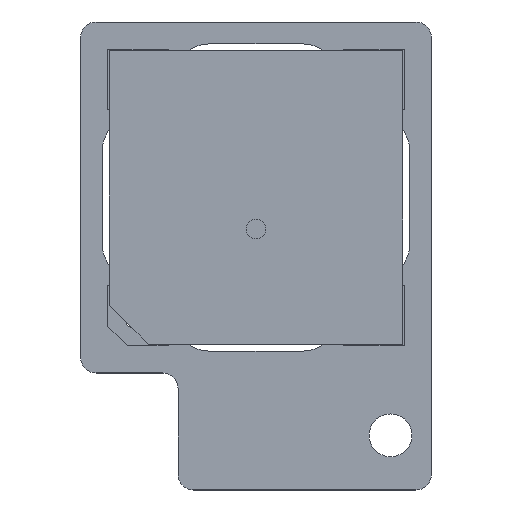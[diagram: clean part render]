
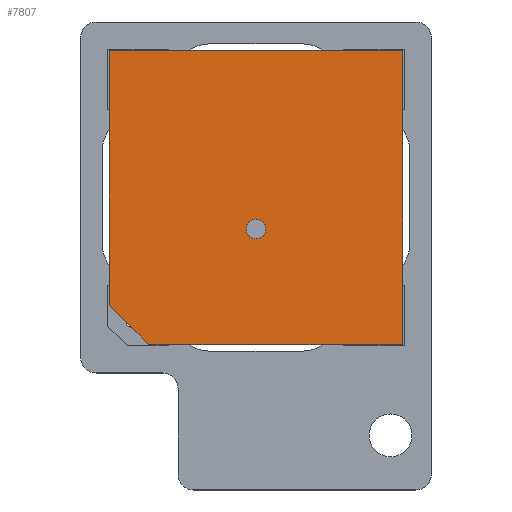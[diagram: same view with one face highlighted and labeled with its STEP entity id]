
A CAD part, top view. The second image highlights one B-rep face of the part: STEP entity #7807.
In plain terms, the highlighted planar face has unit normal (0, 0, 1).
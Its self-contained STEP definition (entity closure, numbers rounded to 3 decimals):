
#238 = CARTESIAN_POINT ( 'NONE',  ( 0., 0., 0.38 ) ) ;
#319 = LINE ( 'NONE', #8445, #10236 ) ;
#560 = LINE ( 'NONE', #8284, #6853 ) ;
#768 = DIRECTION ( 'NONE',  ( 1., 0., 0. ) ) ;
#893 = VERTEX_POINT ( 'NONE', #10473 ) ;
#1015 = CARTESIAN_POINT ( 'NONE',  ( -20.012, 9.089, 0.38 ) ) ;
#1108 = EDGE_CURVE ( 'NONE', #11701, #7348, #3066, .T. ) ;
#1284 = DIRECTION ( 'NONE',  ( 0., 1., 0. ) ) ;
#1442 = VECTOR ( 'NONE', #1284, 1000. ) ;
#1480 = AXIS2_PLACEMENT_3D ( 'NONE', #238, #11181, #12378 ) ;
#1613 = DIRECTION ( 'NONE',  ( 0.707, -0.707, 0. ) ) ;
#1979 = EDGE_CURVE ( 'NONE', #893, #3535, #11154, .T. ) ;
#2186 = CARTESIAN_POINT ( 'NONE',  ( -4.962, 22.139, 0.38 ) ) ;
#2337 = CARTESIAN_POINT ( 'NONE',  ( -11.987, 12.989, 0.38 ) ) ;
#3066 = LINE ( 'NONE', #3977, #6431 ) ;
#3254 = FACE_OUTER_BOUND ( 'NONE', #7750, .T. ) ;
#3535 = VERTEX_POINT ( 'NONE', #7737 ) ;
#3772 = DIRECTION ( 'NONE',  ( 1., 0., 0. ) ) ;
#3977 = CARTESIAN_POINT ( 'NONE',  ( -20.012, 22.139, 0.38 ) ) ;
#4034 = DIRECTION ( 'NONE',  ( 0., -1., 0. ) ) ;
#4213 = ORIENTED_EDGE ( 'NONE', *, *, #7452, .T. ) ;
#4424 = EDGE_CURVE ( 'NONE', #7348, #11019, #560, .T. ) ;
#4458 = ORIENTED_EDGE ( 'NONE', *, *, #4424, .T. ) ;
#4561 = ORIENTED_EDGE ( 'NONE', *, *, #5267, .F. ) ;
#5267 = EDGE_CURVE ( 'NONE', #8298, #8298, #10371, .T. ) ;
#5297 = DIRECTION ( 'NONE',  ( -1., 0., 0. ) ) ;
#5534 = CARTESIAN_POINT ( 'NONE',  ( -18.012, 7.089, 0.38 ) ) ;
#5808 = DIRECTION ( 'NONE',  ( 0., 0., 1. ) ) ;
#6431 = VECTOR ( 'NONE', #4034, 1000. ) ;
#6462 = PLANE ( 'NONE',  #1480 ) ;
#6673 = ORIENTED_EDGE ( 'NONE', *, *, #12151, .T. ) ;
#6853 = VECTOR ( 'NONE', #1613, 1000. ) ;
#7348 = VERTEX_POINT ( 'NONE', #1015 ) ;
#7452 = EDGE_CURVE ( 'NONE', #3535, #11701, #319, .T. ) ;
#7737 = CARTESIAN_POINT ( 'NONE',  ( -4.962, 22.139, 0.38 ) ) ;
#7750 = EDGE_LOOP ( 'NONE', ( #8537, #4213, #12670, #4458, #6673 ) ) ;
#7807 = ADVANCED_FACE ( 'NONE', ( #3254, #12442 ), #6462, .T. ) ;
#8284 = CARTESIAN_POINT ( 'NONE',  ( -20.012, 9.089, 0.38 ) ) ;
#8298 = VERTEX_POINT ( 'NONE', #2337 ) ;
#8445 = CARTESIAN_POINT ( 'NONE',  ( -20.012, 22.139, 0.38 ) ) ;
#8537 = ORIENTED_EDGE ( 'NONE', *, *, #1979, .T. ) ;
#8926 = AXIS2_PLACEMENT_3D ( 'NONE', #9726, #5808, #3772 ) ;
#9006 = EDGE_LOOP ( 'NONE', ( #4561 ) ) ;
#9726 = CARTESIAN_POINT ( 'NONE',  ( -12.487, 12.989, 0.38 ) ) ;
#10167 = VECTOR ( 'NONE', #768, 1000. ) ;
#10236 = VECTOR ( 'NONE', #5297, 1000. ) ;
#10371 = CIRCLE ( 'NONE', #8926, 0.5 ) ;
#10473 = CARTESIAN_POINT ( 'NONE',  ( -4.962, 7.089, 0.38 ) ) ;
#11019 = VERTEX_POINT ( 'NONE', #12483 ) ;
#11154 = LINE ( 'NONE', #2186, #1442 ) ;
#11181 = DIRECTION ( 'NONE',  ( 0., 0., 1. ) ) ;
#11701 = VERTEX_POINT ( 'NONE', #12448 ) ;
#12151 = EDGE_CURVE ( 'NONE', #11019, #893, #12705, .T. ) ;
#12378 = DIRECTION ( 'NONE',  ( 1., 0., 0. ) ) ;
#12442 = FACE_BOUND ( 'NONE', #9006, .T. ) ;
#12448 = CARTESIAN_POINT ( 'NONE',  ( -20.012, 22.139, 0.38 ) ) ;
#12483 = CARTESIAN_POINT ( 'NONE',  ( -18.012, 7.089, 0.38 ) ) ;
#12670 = ORIENTED_EDGE ( 'NONE', *, *, #1108, .T. ) ;
#12705 = LINE ( 'NONE', #5534, #10167 ) ;
